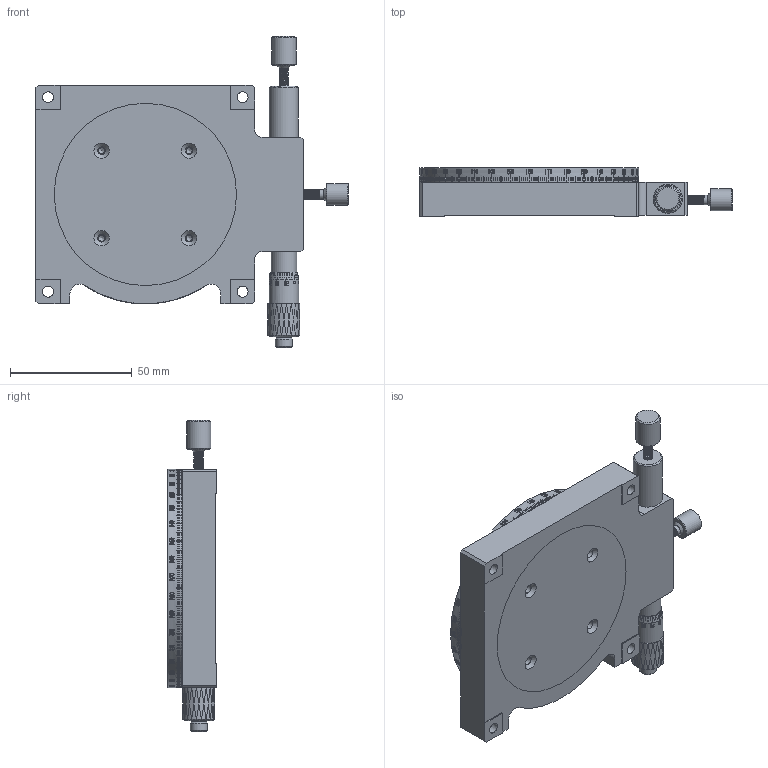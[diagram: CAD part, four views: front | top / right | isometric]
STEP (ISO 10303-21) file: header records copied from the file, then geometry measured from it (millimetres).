
FILE_DESCRIPTION (( 'STEP AP203' ), '1' );
FILE_NAME ('BPBR90.STEP', '2024-07-09T08:25:14', ( 'Windows User' ), ( 'P R C' ), 'SwSTEP 2.0', 'SolidWorks 2024', '' );
FILE_SCHEMA (( 'CONFIG_CONTROL_DESIGN' ));
Length unit declared in the file: millimetre
Products named in the file (1): BPBR90
Bounding box: 128.4 x 20 x 128 mm (x, y, z)
Volume: 156209 mm3; surface area: 71531.8 mm2
Topology: 12 solids, 12 shells, 2694 faces, 8809 edges, 6427 vertices
Faces by surface type: plane 1768, cylinder 405, bspline 398, cone 121, sphere 1, torus 1
Full cylindrical faces by diameter (mm): 2.4 x5, 2.5 x8, 3 x1, 3.2 x1, 3.3 x12, 3.4 x4, 3.96 x45, 4 x1, 4.5 x4, 5 x3, 5.3 x1, 6 x2, 7 x1, 8 x5, 8.5 x1, 8.8 x1, 9 x1, 9.5 x3, 10 x1, 10.5 x1, 12 x1, 12.2 x1, 45 x2, 58.8 x1, 59.8 x3, 60 x1, 68 x1, 70 x2, 75 x2, 79 x2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
Entity records: 160981 total; most frequent: CARTESIAN_POINT 90221, ORIENTED_EDGE 17046, DIRECTION 11139, EDGE_CURVE 8523, VERTEX_POINT 6295, LINE 4273, VECTOR 4273, AXIS2_PLACEMENT_3D 3433
